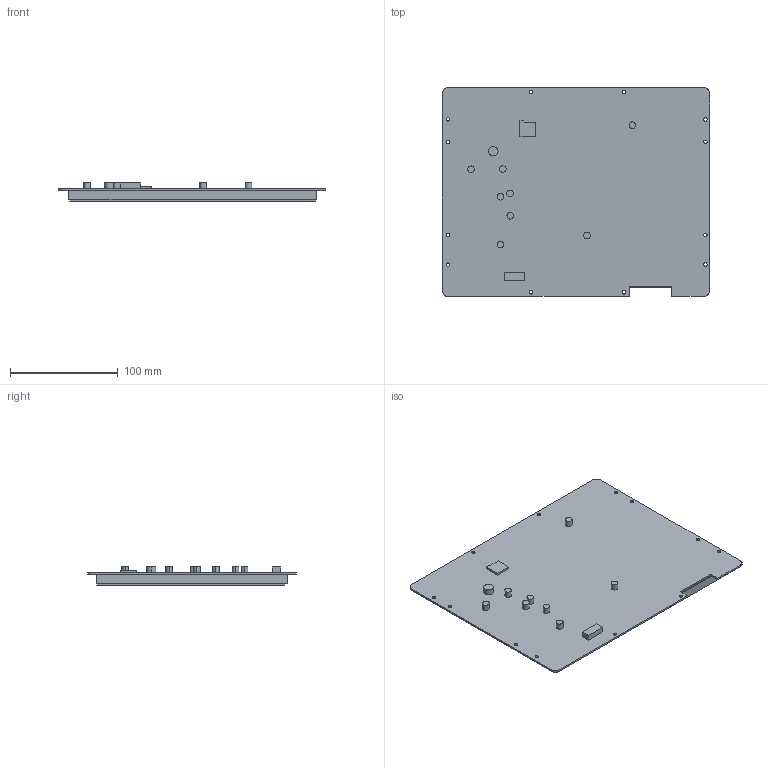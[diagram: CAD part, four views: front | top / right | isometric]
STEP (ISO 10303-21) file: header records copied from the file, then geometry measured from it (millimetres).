
FILE_DESCRIPTION((''),'2;1');
FILE_NAME('DMG10768T104-09WTC','2021-10-22T',('Administrator'),(''),'PRO/ENGINEER BY PARAMETRIC TECHNOLOGY CORPORATION, 2008380','PRO/ENGINEER BY PARAMETRIC TECHNOLOGY CORPORATION, 2008380','');
FILE_SCHEMA(('CONFIG_CONTROL_DESIGN'));
Products named in the file (1): DMG10768T104-09WTC
Bounding box: 247.78 x 193.67 x 17.7 mm (x, y, z)
Volume: 495862.7 mm3; surface area: 106502.7 mm2
Topology: 1 solids, 1 shells, 92 faces, 19226 edges, 32184 vertices
Faces by surface type: cylinder 50, plane 42
Entity records: 103860 total; most frequent: DIRECTION 25483, CARTESIAN_POINT 19473, TRIMMED_CURVE 18994, VECTOR 13155, LINE 13155, AXIS2_PLACEMENT_3D 6164, CIRCLE 6071, ORIENTED_EDGE 464
